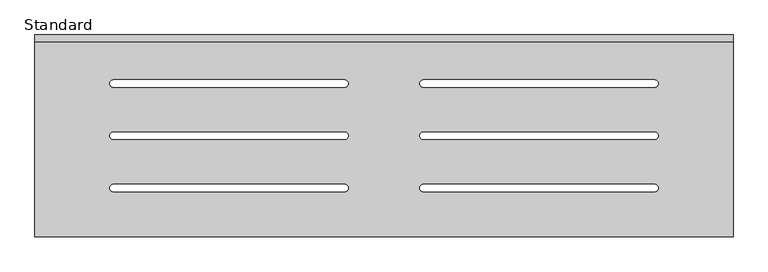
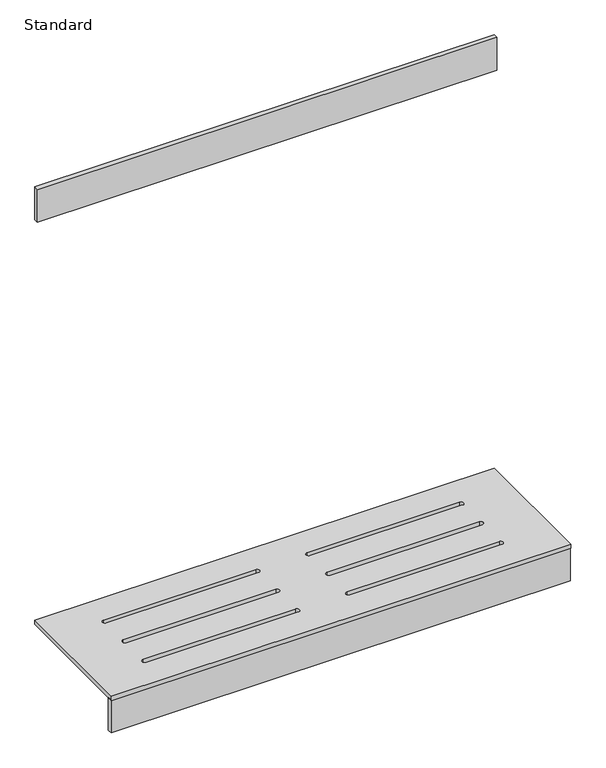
"""IFC4 building model written with IfcOpenShell, lengths in millimetres: furniture geometry, X_Bench-Wall-Duracube-Standard : Standard."""

from ifc_helpers import new_model, si_unit, point, frame, frame_2d, origin, place, context, project, spatial, polyline, circle_curve, trimmed, segment, composite_curve, outline, extrude, source, transform, mapped, element, save


def standard_744cab76(model_context):
    return source(origin(), model_context, "Body", "SweptSolid", [
        extrude(outline(polyline([(711.3669931, -407.5), (711.3669931, -420.5), (-621.9663402, -420.5), (-621.9663402, -407.5), (711.3669931, -407.5)])), frame((0.0, 0.0, 1700.0), z_axis=(0.0, 0.0, 1.0), x_axis=(1.0, 0.0, 0.0)), (0.0, 0.0, 1.0), 100.0),
        extrude(outline(polyline([(711.3669931, -777.5), (711.3669931, -790.5), (-621.9663402, -790.5), (-621.9663402, -777.5), (711.3669931, -777.5)])), frame((0.0, 0.0, 357.0), z_axis=(0.0, 0.0, 1.0), x_axis=(1.0, 0.0, 0.0)), (0.0, 0.0, 1.0), 100.0),
        extrude(outline(polyline([(711.3669931, -792.5), (-621.9663402, -792.5), (-621.9663402, -407.5), (711.3669931, -407.5), (711.3669931, -792.5)]), holes=[composite_curve([segment(polyline([(-30.2996736, -493.25), (-471.9663402, -493.25)]), True, "CONTINUOUS"), segment(trimmed(circle_curve(frame_2d((-471.9663402, -500.25)), 7.0), [point((-471.9663402, -493.25))], [point((-471.9663402, -507.25))], True, "CARTESIAN"), True, "CONTINUOUS"), segment(polyline([(-471.9663402, -507.25), (-30.2996736, -507.25)]), True, "CONTINUOUS"), segment(trimmed(circle_curve(frame_2d((-30.2996736, -500.25)), 7.0), [point((-30.2996736, -507.25))], [point((-30.2996736, -493.25))], True, "CARTESIAN"), True, "CONTINUOUS")], self_intersect=False), composite_curve([segment(polyline([(-30.2996736, -593.0), (-471.9663402, -593.0)]), True, "CONTINUOUS"), segment(trimmed(circle_curve(frame_2d((-471.9663402, -600.0)), 7.0), [point((-471.9663402, -593.0))], [point((-471.9663402, -607.0))], True, "CARTESIAN"), True, "CONTINUOUS"), segment(polyline([(-471.9663402, -607.0), (-30.2996736, -607.0)]), True, "CONTINUOUS"), segment(trimmed(circle_curve(frame_2d((-30.2996736, -600.0)), 7.0), [point((-30.2996736, -607.0))], [point((-30.2996736, -593.0))], True, "CARTESIAN"), True, "CONTINUOUS")], self_intersect=False), composite_curve([segment(polyline([(-30.2996736, -692.75), (-471.9663402, -692.75)]), True, "CONTINUOUS"), segment(trimmed(circle_curve(frame_2d((-471.9663402, -699.75)), 7.0), [point((-471.9663402, -692.75))], [point((-471.9663402, -706.75))], True, "CARTESIAN"), True, "CONTINUOUS"), segment(polyline([(-471.9663402, -706.75), (-30.2996736, -706.75)]), True, "CONTINUOUS"), segment(trimmed(circle_curve(frame_2d((-30.2996736, -699.75)), 7.0), [point((-30.2996736, -706.75))], [point((-30.2996736, -692.75))], True, "CARTESIAN"), True, "CONTINUOUS")], self_intersect=False), composite_curve([segment(polyline([(561.3669931, -493.25), (119.7003264, -493.25)]), True, "CONTINUOUS"), segment(trimmed(circle_curve(frame_2d((119.7003264, -500.25)), 7.0), [point((119.7003264, -493.25))], [point((119.7003264, -507.25))], True, "CARTESIAN"), True, "CONTINUOUS"), segment(polyline([(119.7003264, -507.25), (561.3669931, -507.25)]), True, "CONTINUOUS"), segment(trimmed(circle_curve(frame_2d((561.3669931, -500.25)), 7.0), [point((561.3669931, -507.25))], [point((561.3669931, -493.25))], True, "CARTESIAN"), True, "CONTINUOUS")], self_intersect=False), composite_curve([segment(polyline([(561.3669931, -593.0), (119.7003264, -593.0)]), True, "CONTINUOUS"), segment(trimmed(circle_curve(frame_2d((119.7003264, -600.0)), 7.0), [point((119.7003264, -593.0))], [point((119.7003264, -607.0))], True, "CARTESIAN"), True, "CONTINUOUS"), segment(polyline([(119.7003264, -607.0), (561.3669931, -607.0)]), True, "CONTINUOUS"), segment(trimmed(circle_curve(frame_2d((561.3669931, -600.0)), 7.0), [point((561.3669931, -607.0))], [point((561.3669931, -593.0))], True, "CARTESIAN"), True, "CONTINUOUS")], self_intersect=False), composite_curve([segment(polyline([(561.3669931, -692.75), (119.7003264, -692.75)]), True, "CONTINUOUS"), segment(trimmed(circle_curve(frame_2d((119.7003264, -699.75)), 7.0), [point((119.7003264, -692.75))], [point((119.7003264, -706.75))], True, "CARTESIAN"), True, "CONTINUOUS"), segment(polyline([(119.7003264, -706.75), (561.3669931, -706.75)]), True, "CONTINUOUS"), segment(trimmed(circle_curve(frame_2d((561.3669931, -699.75)), 7.0), [point((561.3669931, -706.75))], [point((561.3669931, -692.75))], True, "CARTESIAN"), True, "CONTINUOUS")], self_intersect=False)]), frame((0.0, 0.0, 457.0), z_axis=(0.0, 0.0, 1.0), x_axis=(1.0, 0.0, 0.0)), (0.0, 0.0, 1.0), 13.0),
    ])


if __name__ == "__main__":
    model = new_model("IFC4")
    model_context = context("Model", 3, world=origin())
    ifc_project = project(units=[si_unit("LENGTHUNIT", "METRE", prefix="MILLI")], contexts=[model_context])
    site = spatial("IfcSite", under=ifc_project)
    building = spatial("IfcBuilding", under=site)
    placement = place(None, origin())
    standard_shape = standard_744cab76(model_context)
    element("IfcFurniture", 1, ObjectType="X_Bench-Wall-Duracube-Standard : Standard", at=placement, inside=building, context=model_context, shape_type="MappedRepresentation", body=[
        mapped(standard_shape, transform((0.0, 0.0, 0.0), x_axis=(1.0, 0.0, 0.0), y_axis=(0.0, 1.0, 0.0), z_axis=(0.0, 0.0, 1.0))),
    ])
    save(model, "model.ifc")
